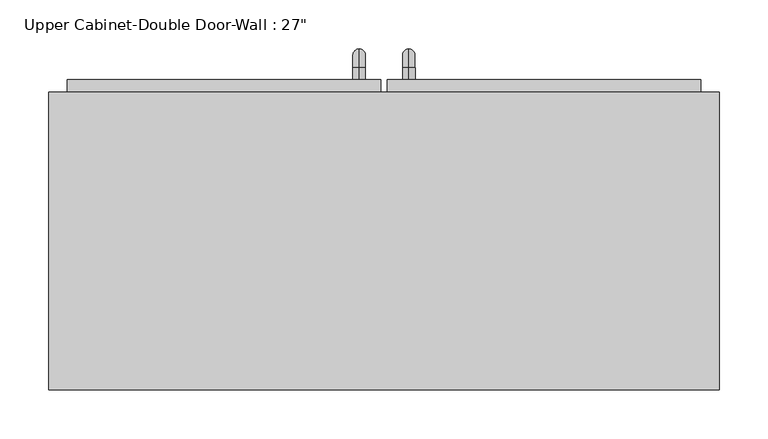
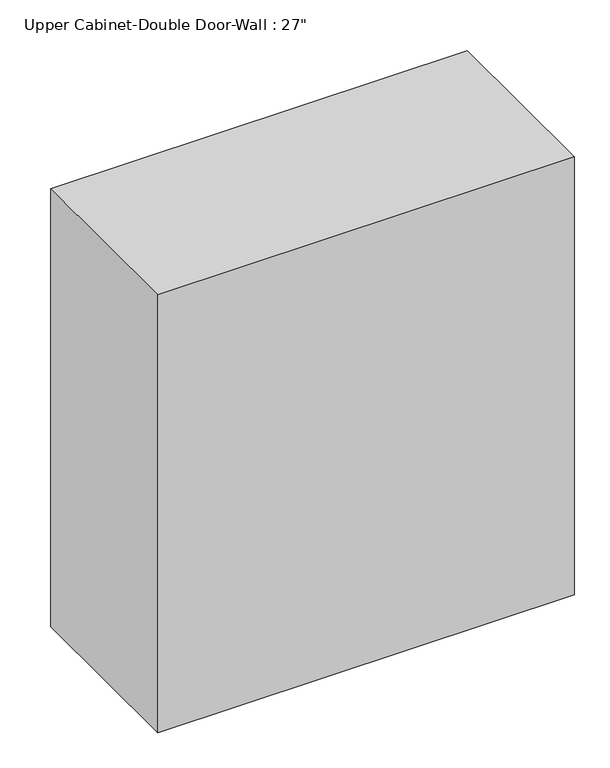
"""IFC4 building model written with IfcOpenShell, lengths in millimetres: furniture geometry."""

import ifcopenshell
import ifcopenshell.guid

model = None  # the IFC model being written
_history = None  # IfcOwnerHistory: only IFC2X3 demands one
_inside = {}  # id of a spatial element -> (the spatial element, [elements in it])
_under = {}  # id of a project, library or spatial element -> (it, [spatial elements below it])
_declared = {}  # id of a project -> (the project, [libraries it declares])
_typed = {}  # id of a type object -> (the type object, [elements of that type])
_made_of = {}  # id of a material, layer set ... -> (it, [elements and type objects made of it])


def new_model(schema):
    """Start an empty IFC model of exactly this schema.

    Asked for "IFC4X3", IfcOpenShell would pick the latest addendum, in which some entities
    have other attributes; the version numbers below select the first issue.
    IFC2X3 requires an IfcOwnerHistory on every rooted entity: one is made here for all.
    """
    global model, _history
    if schema == "IFC4X3":
        model = ifcopenshell.file(schema_version=(4, 3, 0, 0))
    else:
        model = ifcopenshell.file(schema=schema)
    _inside.clear()
    _under.clear()
    _declared.clear()
    _typed.clear()
    _made_of.clear()
    _history = None
    if model.schema == "IFC2X3":
        org = make("IfcOrganization", Name="unknown")
        user = make(
            "IfcPersonAndOrganization",
            ThePerson=make("IfcPerson", FamilyName="unknown"),
            TheOrganization=org,
        )
        app = make(
            "IfcApplication",
            ApplicationDeveloper=org,
            Version="unknown",
            ApplicationFullName="unknown",
            ApplicationIdentifier="unknown",
        )
        _history = make(
            "IfcOwnerHistory",
            OwningUser=user,
            OwningApplication=app,
            ChangeAction="ADDED",
            CreationDate=0,
        )
    return model


def make(cls, **values):
    """One entity of the class cls with the attributes given. An attribute that is None is left unset."""
    return model.create_entity(
        cls, **{name: value for name, value in values.items() if value is not None}
    )


def rooted(cls, **values):
    """An entity with a GlobalId (a new one), such as an element, a storey or a relation."""
    return make(cls, GlobalId=ifcopenshell.guid.new(), OwnerHistory=_history, **values)


def si_unit(unit_type, name, prefix=None):
    """IfcSIUnit, for example si_unit("LENGTHUNIT", "METRE", prefix="MILLI")."""
    return make("IfcSIUnit", UnitType=unit_type, Prefix=prefix, Name=name)


def assignment(units):
    """IfcUnitAssignment: the units of a project."""
    return None if units is None else make("IfcUnitAssignment", Units=units)


def point(xyz):
    """IfcCartesianPoint."""
    return None if xyz is None else make("IfcCartesianPoint", Coordinates=xyz)


def direction(xyz):
    """IfcDirection."""
    return None if xyz is None else make("IfcDirection", DirectionRatios=xyz)


def frame(location, z_axis=None, x_axis=None):
    """IfcAxis2Placement3D, a coordinate frame: its origin and axes. An axis left out is left unset."""
    return make(
        "IfcAxis2Placement3D",
        Location=point(location),
        Axis=direction(z_axis),
        RefDirection=direction(x_axis),
    )


def origin():
    """The frame at (0, 0, 0) with its axes left unset."""
    return frame((0.0, 0.0, 0.0))


def place(relative_to, where):
    """IfcLocalPlacement: puts the frame where relative to a parent placement (None: the world)."""
    return make(
        "IfcLocalPlacement", PlacementRelTo=relative_to, RelativePlacement=where
    )


def context(
    kind, dimensions, precision=None, world=None, true_north=None, identifier=None
):
    """IfcGeometricRepresentationContext, for example the 3D "Model" context."""
    return make(
        "IfcGeometricRepresentationContext",
        ContextIdentifier=identifier,
        ContextType=kind,
        CoordinateSpaceDimension=dimensions,
        Precision=precision,
        WorldCoordinateSystem=world,
        TrueNorth=true_north,
    )


def project(units=None, contexts=None):
    """IfcProject with its units and contexts."""
    return rooted(
        "IfcProject",
        Name="project",
        RepresentationContexts=contexts,
        UnitsInContext=assignment(units),
    )


def spatial(cls, under=None, at=None, **own):
    """A site, building, storey or space (cls), placed at a placement, below another one or the project."""
    s = rooted(cls, ObjectPlacement=at, **own)
    if under is not None:
        _under.setdefault(under.id(), (under, []))[1].append(s)
    return s


def polyline(points):
    """IfcPolyline through the points."""
    return make("IfcPolyline", Points=[point(p) for p in points])


def circle_curve(where, radius):
    """IfcCircle in the frame where."""
    return make("IfcCircle", Position=where, Radius=radius)


def ellipse_curve(where, semi_axis1, semi_axis2):
    """IfcEllipse in the frame where."""
    return make(
        "IfcEllipse", Position=where, SemiAxis1=semi_axis1, SemiAxis2=semi_axis2
    )


def trimmed(basis, trim1, trim2, sense, master):
    """IfcTrimmedCurve: the piece of a basis curve between two trims."""
    return make(
        "IfcTrimmedCurve",
        BasisCurve=basis,
        Trim1=trim1,
        Trim2=trim2,
        SenseAgreement=sense,
        MasterRepresentation=master,
    )


def outline(outer, holes=None, kind="AREA"):
    """IfcArbitraryClosedProfileDef: a profile drawn as a closed curve; with holes, ...WithVoids."""
    if holes is None:
        return make("IfcArbitraryClosedProfileDef", ProfileType=kind, OuterCurve=outer)
    return make(
        "IfcArbitraryProfileDefWithVoids",
        ProfileType=kind,
        OuterCurve=outer,
        InnerCurves=holes,
    )


def extrude(swept, where, along, depth):
    """IfcExtrudedAreaSolid: the profile swept, set in the frame where, extruded along a direction by depth."""
    return make(
        "IfcExtrudedAreaSolid",
        SweptArea=swept,
        Position=where,
        ExtrudedDirection=direction(along),
        Depth=depth,
    )


def faces_of(points, faces, orient=None, outer=None):
    """IfcFace entities. A face is a list of loops; a loop is a list of indices into points, from 0.

    orient and outer hold one flag for each loop. By default every Orientation is true, the
    first loop of a face is its IfcFaceOuterBound and the others are IfcFaceBound.
    """
    made = []
    for i, loops in enumerate(faces):
        bounds = []
        for j, loop in enumerate(loops):
            is_outer = j == 0 if outer is None else outer[i][j]
            bounds.append(
                make(
                    "IfcFaceOuterBound" if is_outer else "IfcFaceBound",
                    Bound=make("IfcPolyLoop", Polygon=[points[k] for k in loop]),
                    Orientation=True if orient is None else orient[i][j],
                )
            )
        made.append(make("IfcFace", Bounds=bounds))
    return made


def faceted_brep(points, faces, orient=None, outer=None, voids=None):
    """IfcFacetedBrep: a solid bounded by flat faces; with voids (closed shells), ...WithVoids."""
    shared = [point(p) for p in points]
    hull = make("IfcClosedShell", CfsFaces=faces_of(shared, faces, orient, outer))
    if voids is None:
        return make("IfcFacetedBrep", Outer=hull)
    return make(
        "IfcFacetedBrepWithVoids",
        Outer=hull,
        Voids=[
            make(cls, CfsFaces=faces_of(shared, fs, o, b)) for cls, fs, o, b in voids
        ],
    )


def shape(context_of_items, identifier, shape_type, items):
    """IfcShapeRepresentation: the items that make up one representation, for example the "Body"."""
    return make(
        "IfcShapeRepresentation",
        ContextOfItems=context_of_items,
        RepresentationIdentifier=identifier,
        RepresentationType=shape_type,
        Items=items,
    )


def source(mapping_origin, context_of_items, identifier, shape_type, items):
    """IfcRepresentationMap: a shape defined once, which mapped items show again and again."""
    return make(
        "IfcRepresentationMap",
        MappingOrigin=mapping_origin,
        MappedRepresentation=shape(context_of_items, identifier, shape_type, items),
    )


def transform(
    local_origin,
    x_axis=None,
    y_axis=None,
    z_axis=None,
    scale=None,
    scale2=None,
    scale3=None,
    uniform=True,
):
    """IfcCartesianTransformationOperator3D, or its non-uniform kind. x_axis, y_axis, z_axis: its Axis1, 2, 3."""
    if uniform:
        return make(
            "IfcCartesianTransformationOperator3D",
            Axis1=direction(x_axis),
            Axis2=direction(y_axis),
            LocalOrigin=point(local_origin),
            Scale=scale,
            Axis3=direction(z_axis),
        )
    return make(
        "IfcCartesianTransformationOperator3DnonUniform",
        Axis1=direction(x_axis),
        Axis2=direction(y_axis),
        LocalOrigin=point(local_origin),
        Scale=scale,
        Axis3=direction(z_axis),
        Scale2=scale2,
        Scale3=scale3,
    )


def mapped(mapping_source, mapping_target):
    """IfcMappedItem: shows the shape of a source again, moved by a transform."""
    return make(
        "IfcMappedItem", MappingSource=mapping_source, MappingTarget=mapping_target
    )


def made_of(thing, what):
    """Note that an element or type object is made of a material, layer set ...; save() writes the relation."""
    if what is not None:
        _made_of.setdefault(what.id(), (what, []))[1].append(thing)
    return thing


def element(
    cls,
    number,
    at=None,
    inside=None,
    cuts=None,
    type_object=None,
    material=None,
    context=None,
    identifier="Body",
    shape_type=None,
    held_by="IfcProductDefinitionShape",
    body=None,
    shapes=None,
    **own,
):
    """One element of the class cls, such as IfcWall. Its Tag is "e" and its number.

    at: its placement. inside: the storey or other place that contains it. cuts: it is an
    opening in that element (IfcRelVoidsElement). A single representation is given by context,
    identifier, shape_type and body (its items); several are given by shapes. held_by: the class
    of the entity that holds the representations. save() writes the other relations.
    """
    e = rooted(cls, Tag="e%d" % number, ObjectPlacement=at, **own)
    if body is not None:
        shapes = [shape(context, identifier, shape_type, body)]
    if shapes is not None:
        e.Representation = make(held_by, Representations=shapes)
    if inside is not None:
        _inside.setdefault(inside.id(), (inside, []))[1].append(e)
    if cuts is not None:
        rooted(
            "IfcRelVoidsElement", RelatingBuildingElement=cuts, RelatedOpeningElement=e
        )
    if type_object is not None:
        _typed.setdefault(type_object.id(), (type_object, []))[1].append(e)
    return made_of(e, material)


def aggregate(whole, parts):
    """IfcRelAggregates: a whole, such as a stair, and the parts it consists of."""
    return rooted("IfcRelAggregates", RelatingObject=whole, RelatedObjects=parts)


def save(model, path):
    """Write the relations noted so far, then the file.

    IfcRelAggregates (storeys below a building ...), IfcRelContainedInSpatialStructure (elements
    in a storey), IfcRelDefinesByType, IfcRelAssociatesMaterial and IfcRelDeclares: one each for
    every whole, place, type object, material and project.
    """
    for whole, parts in _under.values():
        aggregate(whole, parts)
    for where, things in _inside.values():
        rooted(
            "IfcRelContainedInSpatialStructure",
            RelatedElements=things,
            RelatingStructure=where,
        )
    for kind, things in _typed.values():
        rooted("IfcRelDefinesByType", RelatedObjects=things, RelatingType=kind)
    for what, things in _made_of.values():
        rooted("IfcRelAssociatesMaterial", RelatedObjects=things, RelatingMaterial=what)
    for by, libraries in _declared.values():
        rooted("IfcRelDeclares", RelatingContext=by, RelatedDefinitions=libraries)
    model.write(path)


def plane_surface(at):
    """IfcPlane: the flat surface through the origin of the frame at, square to its z axis."""
    return make("IfcPlane", Position=at)


def cylinder_surface(at, radius):
    """IfcCylindricalSurface: all points at the distance radius from the z axis of the frame at."""
    return make("IfcCylindricalSurface", Position=at, Radius=radius)


def revolved_surface(curve, axis_point, axis_direction):
    """IfcSurfaceOfRevolution: the curve turned about the line through axis_point along axis_direction."""
    return make(
        "IfcSurfaceOfRevolution",
        SweptCurve=make("IfcArbitraryOpenProfileDef", ProfileType="CURVE", Curve=curve),
        AxisPosition=make("IfcAxis1Placement", Location=point(axis_point), Axis=direction(axis_direction)),
    )


def advanced_brep(points, edges, surfaces, faces):
    """IfcAdvancedBrep: a solid bounded by faces that lie on surfaces and meet in shared edges.

    An edge is (start, end): straight between two places in points (the first is 0);
    or (start, end, curve); or (start, end, curve, False) where it runs against its curve.
    A face is (place in surfaces, loops), or (place, loops, False) where it looks against
    its surface's normal. A loop lists edges by number (the first is 1), with a minus sign
    where the edge is run from its end to its start. The first loop is the outer one.
    """
    corners = [point(p) for p in points]
    vertices = [make("IfcVertexPoint", VertexGeometry=c) for c in corners]
    made = []
    for start, end, *more in edges:
        made.append(
            make(
                "IfcEdgeCurve",
                EdgeStart=vertices[start],
                EdgeEnd=vertices[end],
                EdgeGeometry=more[0] if more else make("IfcPolyline", Points=[corners[start], corners[end]]),
                SameSense=more[1] if len(more) > 1 else True,
            )
        )
    hull = []
    for where, loops, *sense in faces:
        bounds = []
        for j, loop in enumerate(loops):
            ring = [make("IfcOrientedEdge", EdgeElement=made[abs(k) - 1], Orientation=k > 0) for k in loop]
            bounds.append(
                make(
                    "IfcFaceOuterBound" if j == 0 else "IfcFaceBound",
                    Bound=make("IfcEdgeLoop", EdgeList=ring),
                    Orientation=True,
                )
            )
        hull.append(make("IfcAdvancedFace", Bounds=bounds, FaceSurface=surfaces[where], SameSense=sense[0] if sense else True))
    return make("IfcAdvancedBrep", Outer=make("IfcClosedShell", CfsFaces=hull))


def furniture_a8c34398(model_context):
    return source(origin(), model_context, "Body", "SolidModel", [
        faceted_brep([(-313.1288372, 57.15, 2133.6), (-313.1288372, 57.15, 1371.6), (372.6711628, 57.15, 1371.6), (372.6711628, 57.15, 2133.6), (-313.1288372, 361.95, 2133.6), (372.6711628, 361.95, 2133.6), (372.6711628, 361.95, 1371.6), (-313.1288372, 361.95, 1371.6), (-294.0788372, 361.95, 2114.55), (-294.0788372, 361.95, 1390.65), (353.6211628, 361.95, 1390.65), (353.6211628, 361.95, 2114.55), (353.6211628, 76.2, 2114.55), (-294.0788372, 76.2, 2114.55), (353.6211628, 76.2, 1390.65), (-294.0788372, 76.2, 1390.65)], [[[0, 1, 2, 3]], [[4, 5, 6, 7], [8, 9, 10, 11]], [[1, 0, 4, 7]], [[2, 1, 7, 6]], [[3, 2, 6, 5]], [[0, 3, 5, 4]], [[8, 11, 12, 13]], [[11, 10, 14, 12]], [[10, 9, 15, 14]], [[9, 8, 13, 15]], [[13, 12, 14, 15]]]),
        advanced_brep(
        [(55.1711628, 374.65, 1517.65), (55.1711628, 374.65, 1530.35), (55.1711628, 387.35, 1517.65), (55.1711628, 387.35, 1530.35), (55.1711628, 406.4, 1511.3), (55.1711628, 393.7, 1511.3), (55.1711628, 393.7, 1435.1), (55.1711628, 406.4, 1435.1), (55.1711628, 387.35, 1416.05), (55.1711628, 387.35, 1428.75), (55.1711628, 374.65, 1428.75), (55.1711628, 374.65, 1416.05)],
        [
            (0, 1, circle_curve(frame((55.1711628, 374.65, 1524.0), z_axis=(0.0, -1.0, 0.0), x_axis=(0.0, 0.0, -1.0)), 6.35)),
            (1, 0, circle_curve(frame((55.1711628, 374.65, 1524.0), z_axis=(0.0, -1.0, 0.0), x_axis=(0.0, 0.0, -1.0)), 6.35)),
            (0, 2),
            (2, 3, circle_curve(frame((55.1711628, 387.35, 1524.0), z_axis=(0.0, -1.0, 0.0), x_axis=(0.0, 0.0, -1.0)), 6.35)),
            (3, 1),
            (3, 2, circle_curve(frame((55.1711628, 387.35, 1524.0), z_axis=(0.0, -1.0, 0.0), x_axis=(0.0, 0.0, -1.0)), 6.35)),
            (4, 3, circle_curve(frame((55.1711628, 387.35, 1511.3), z_axis=(1.0, 0.0, 0.0), x_axis=(0.0, 0.0, 1.0)), 19.05)),
            (2, 5, circle_curve(frame((55.1711628, 387.35, 1511.3), z_axis=(-1.0, 0.0, 0.0), x_axis=(0.0, 0.0, 1.0)), 6.35)),
            (5, 4, circle_curve(frame((55.1711628, 400.05, 1511.3), z_axis=(0.0, 0.0, 1.0), x_axis=(0.0, -1.0, 0.0)), 6.35)),
            (4, 5, circle_curve(frame((55.1711628, 400.05, 1511.3), z_axis=(0.0, 0.0, 1.0), x_axis=(0.0, -1.0, 0.0)), 6.35)),
            (5, 6),
            (6, 7, circle_curve(frame((55.1711628, 400.05, 1435.1), z_axis=(0.0, 0.0, 1.0), x_axis=(0.0, -1.0, 0.0)), 6.35)),
            (7, 4),
            (7, 6, circle_curve(frame((55.1711628, 400.05, 1435.1), z_axis=(0.0, 0.0, 1.0), x_axis=(0.0, -1.0, 0.0)), 6.35)),
            (8, 7, circle_curve(frame((55.1711628, 387.35, 1435.1), z_axis=(1.0, 0.0, 0.0), x_axis=(0.0, 1.0, 0.0)), 19.05)),
            (6, 9, circle_curve(frame((55.1711628, 387.35, 1435.1), z_axis=(-1.0, 0.0, 0.0), x_axis=(0.0, 1.0, 0.0)), 6.35)),
            (9, 8, circle_curve(frame((55.1711628, 387.35, 1422.4), z_axis=(0.0, 1.0, 0.0), x_axis=(0.0, 0.0, 1.0)), 6.35)),
            (8, 9, circle_curve(frame((55.1711628, 387.35, 1422.4), z_axis=(0.0, 1.0, 0.0), x_axis=(0.0, 0.0, 1.0)), 6.35)),
            (10, 11, circle_curve(frame((55.1711628, 374.65, 1422.4), z_axis=(0.0, -1.0, 0.0), x_axis=(0.0, 0.0, 1.0)), 6.35)),
            (11, 10, circle_curve(frame((55.1711628, 374.65, 1422.4), z_axis=(0.0, -1.0, 0.0), x_axis=(0.0, 0.0, 1.0)), 6.35)),
            (9, 10),
            (11, 8),
        ],
        [
            plane_surface(frame((48.8211628, 374.65, 1524.0), z_axis=(0.0, -1.0, 0.0), x_axis=(0.0, 0.0, 1.0))),
            cylinder_surface(frame((55.1711628, 374.65, 1524.0), z_axis=(0.0, -1.0, 0.0), x_axis=(0.0, 0.0, -1.0)), 6.35),
            revolved_surface(trimmed(ellipse_curve(frame((55.1711628, 387.35, 1524.0), z_axis=(0.0, -1.0, 0.0), x_axis=(0.0, 0.0, -1.0)), 6.35, 6.35), [point((55.1711628, 387.35, 1517.65))], [point((55.1711628, 387.35, 1530.35))], True, "CARTESIAN"), (55.1711628, 387.35, 1511.3), (-1.0, 0.0, 0.0)),
            revolved_surface(trimmed(ellipse_curve(frame((55.1711628, 387.35, 1524.0), z_axis=(0.0, -1.0, 0.0), x_axis=(0.0, 0.0, -1.0)), 6.35, 6.35), [point((55.1711628, 387.35, 1530.35))], [point((55.1711628, 387.35, 1517.65))], True, "CARTESIAN"), (55.1711628, 387.35, 1511.3), (-1.0, 0.0, 0.0)),
            cylinder_surface(frame((55.1711628, 400.05, 1511.3), z_axis=(0.0, 0.0, 1.0), x_axis=(0.0, -1.0, 0.0)), 6.35),
            revolved_surface(trimmed(ellipse_curve(frame((55.1711628, 400.05, 1435.1), z_axis=(0.0, 0.0, 1.0), x_axis=(0.0, -1.0, 0.0)), 6.35, 6.35), [point((55.1711628, 393.7, 1435.1))], [point((55.1711628, 406.4, 1435.1))], True, "CARTESIAN"), (55.1711628, 387.35, 1435.1), (-1.0, 0.0, 0.0)),
            revolved_surface(trimmed(ellipse_curve(frame((55.1711628, 400.05, 1435.1), z_axis=(0.0, 0.0, 1.0), x_axis=(0.0, -1.0, 0.0)), 6.35, 6.35), [point((55.1711628, 406.4, 1435.1))], [point((55.1711628, 393.7, 1435.1))], True, "CARTESIAN"), (55.1711628, 387.35, 1435.1), (-1.0, 0.0, 0.0)),
            plane_surface(frame((48.8211628, 374.65, 1422.4), z_axis=(0.0, -1.0, 0.0), x_axis=(0.0, 0.0, -1.0))),
            cylinder_surface(frame((55.1711628, 387.35, 1422.4), z_axis=(0.0, 1.0, 0.0), x_axis=(0.0, 0.0, 1.0)), 6.35),
        ],
        [
            (0, [[1, 2]]),
            (1, [[-1, 3, 4, 5]]),
            (1, [[-2, -5, 6, -3]]),
            (2, [[7, -4, 8, 9]]),
            (3, [[-8, -6, -7, 10]]),
            (4, [[-9, 11, 12, 13]]),
            (4, [[-10, -13, 14, -11]]),
            (5, [[15, -12, 16, 17]]),
            (6, [[-16, -14, -15, 18]]),
            (7, [[19, 20]]),
            (8, [[-17, 21, -20, 22]]),
            (8, [[-18, -22, -19, -21]]),
        ],
    ),
        advanced_brep(
        [(4.3711628, 374.65, 1517.65), (4.3711628, 374.65, 1530.35), (4.3711628, 387.35, 1517.65), (4.3711628, 387.35, 1530.35), (4.3711628, 406.4, 1511.3), (4.3711628, 393.7, 1511.3), (4.3711628, 393.7, 1435.1), (4.3711628, 406.4, 1435.1), (4.3711628, 387.35, 1416.05), (4.3711628, 387.35, 1428.75), (4.3711628, 374.65, 1428.75), (4.3711628, 374.65, 1416.05)],
        [
            (0, 1, circle_curve(frame((4.3711628, 374.65, 1524.0), z_axis=(0.0, -1.0, 0.0), x_axis=(0.0, 0.0, 1.0)), 6.35)),
            (1, 0, circle_curve(frame((4.3711628, 374.65, 1524.0), z_axis=(0.0, -1.0, 0.0), x_axis=(0.0, 0.0, 1.0)), 6.35)),
            (0, 2),
            (2, 3, circle_curve(frame((4.3711628, 387.35, 1524.0), z_axis=(0.0, -1.0, 0.0), x_axis=(0.0, 0.0, 1.0)), 6.35)),
            (3, 1),
            (3, 2, circle_curve(frame((4.3711628, 387.35, 1524.0), z_axis=(0.0, -1.0, 0.0), x_axis=(0.0, 0.0, 1.0)), 6.35)),
            (4, 3, circle_curve(frame((4.3711628, 387.35, 1511.3), z_axis=(1.0, 0.0, 0.0), x_axis=(0.0, 0.0, 1.0)), 19.05)),
            (2, 5, circle_curve(frame((4.3711628, 387.35, 1511.3), z_axis=(-1.0, 0.0, 0.0), x_axis=(0.0, 0.0, 1.0)), 6.35)),
            (5, 4, circle_curve(frame((4.3711628, 400.05, 1511.3), z_axis=(0.0, 0.0, 1.0), x_axis=(0.0, 1.0, 0.0)), 6.35)),
            (4, 5, circle_curve(frame((4.3711628, 400.05, 1511.3), z_axis=(0.0, 0.0, 1.0), x_axis=(0.0, 1.0, 0.0)), 6.35)),
            (5, 6),
            (6, 7, circle_curve(frame((4.3711628, 400.05, 1435.1), z_axis=(0.0, 0.0, 1.0), x_axis=(0.0, 1.0, 0.0)), 6.35)),
            (7, 4),
            (7, 6, circle_curve(frame((4.3711628, 400.05, 1435.1), z_axis=(0.0, 0.0, 1.0), x_axis=(0.0, 1.0, 0.0)), 6.35)),
            (8, 7, circle_curve(frame((4.3711628, 387.35, 1435.1), z_axis=(1.0, 0.0, 0.0), x_axis=(0.0, 1.0, 0.0)), 19.05)),
            (6, 9, circle_curve(frame((4.3711628, 387.35, 1435.1), z_axis=(-1.0, 0.0, 0.0), x_axis=(0.0, 1.0, 0.0)), 6.35)),
            (9, 8, circle_curve(frame((4.3711628, 387.35, 1422.4), z_axis=(0.0, 1.0, 0.0), x_axis=(0.0, 0.0, -1.0)), 6.35)),
            (8, 9, circle_curve(frame((4.3711628, 387.35, 1422.4), z_axis=(0.0, 1.0, 0.0), x_axis=(0.0, 0.0, -1.0)), 6.35)),
            (10, 11, circle_curve(frame((4.3711628, 374.65, 1422.4), z_axis=(0.0, -1.0, 0.0), x_axis=(0.0, 0.0, -1.0)), 6.35)),
            (11, 10, circle_curve(frame((4.3711628, 374.65, 1422.4), z_axis=(0.0, -1.0, 0.0), x_axis=(0.0, 0.0, -1.0)), 6.35)),
            (9, 10),
            (11, 8),
        ],
        [
            plane_surface(frame((-1.9788372, 374.65, 1524.0), z_axis=(0.0, -1.0, 0.0), x_axis=(0.0, 0.0, 1.0))),
            cylinder_surface(frame((4.3711628, 374.65, 1524.0), z_axis=(0.0, -1.0, 0.0), x_axis=(0.0, 0.0, 1.0)), 6.35),
            revolved_surface(trimmed(ellipse_curve(frame((4.3711628, 387.35, 1524.0), z_axis=(0.0, -1.0, 0.0), x_axis=(0.0, 0.0, 1.0)), 6.35, 6.35), [point((4.3711628, 387.35, 1517.65))], [point((4.3711628, 387.35, 1530.35))], True, "CARTESIAN"), (4.3711628, 387.35, 1511.3), (-1.0, 0.0, 0.0)),
            revolved_surface(trimmed(ellipse_curve(frame((4.3711628, 387.35, 1524.0), z_axis=(0.0, -1.0, 0.0), x_axis=(0.0, 0.0, 1.0)), 6.35, 6.35), [point((4.3711628, 387.35, 1530.35))], [point((4.3711628, 387.35, 1517.65))], True, "CARTESIAN"), (4.3711628, 387.35, 1511.3), (-1.0, 0.0, 0.0)),
            cylinder_surface(frame((4.3711628, 400.05, 1511.3), z_axis=(0.0, 0.0, 1.0), x_axis=(0.0, 1.0, 0.0)), 6.35),
            revolved_surface(trimmed(ellipse_curve(frame((4.3711628, 400.05, 1435.1), z_axis=(0.0, 0.0, 1.0), x_axis=(0.0, 1.0, 0.0)), 6.35, 6.35), [point((4.3711628, 393.7, 1435.1))], [point((4.3711628, 406.4, 1435.1))], True, "CARTESIAN"), (4.3711628, 387.35, 1435.1), (-1.0, 0.0, 0.0)),
            revolved_surface(trimmed(ellipse_curve(frame((4.3711628, 400.05, 1435.1), z_axis=(0.0, 0.0, 1.0), x_axis=(0.0, 1.0, 0.0)), 6.35, 6.35), [point((4.3711628, 406.4, 1435.1))], [point((4.3711628, 393.7, 1435.1))], True, "CARTESIAN"), (4.3711628, 387.35, 1435.1), (-1.0, 0.0, 0.0)),
            plane_surface(frame((-1.9788372, 374.65, 1422.4), z_axis=(0.0, -1.0, 0.0), x_axis=(0.0, 0.0, -1.0))),
            cylinder_surface(frame((4.3711628, 387.35, 1422.4), z_axis=(0.0, 1.0, 0.0), x_axis=(0.0, 0.0, -1.0)), 6.35),
        ],
        [
            (0, [[1, 2]]),
            (1, [[-1, 3, 4, 5]]),
            (1, [[-2, -5, 6, -3]]),
            (2, [[7, -4, 8, 9]]),
            (3, [[-8, -6, -7, 10]]),
            (4, [[-9, 11, 12, 13]]),
            (4, [[-10, -13, 14, -11]]),
            (5, [[15, -12, 16, 17]]),
            (6, [[-16, -14, -15, 18]]),
            (7, [[19, 20]]),
            (8, [[-17, 21, -20, 22]]),
            (8, [[-18, -22, -19, -21]]),
        ],
    ),
        extrude(outline(polyline([(32.9461628, 374.65), (353.6211628, 374.65), (353.6211628, 342.9), (32.9461628, 342.9), (32.9461628, 374.65)])), frame((0.0, 0.0, 1390.65), z_axis=(0.0, 0.0, 1.0), x_axis=(1.0, 0.0, 0.0)), (0.0, 0.0, 1.0), 723.9),
        extrude(outline(polyline([(-294.0788372, 374.65), (26.5961628, 374.65), (26.5961628, 342.9), (-294.0788372, 342.9), (-294.0788372, 374.65)])), frame((0.0, 0.0, 1390.65), z_axis=(0.0, 0.0, 1.0), x_axis=(1.0, 0.0, 0.0)), (0.0, 0.0, 1.0), 723.9),
    ])


if __name__ == "__main__":
    model = new_model("IFC4")
    model_context = context("Model", 3, world=origin())
    ifc_project = project(units=[si_unit("LENGTHUNIT", "METRE", prefix="MILLI")], contexts=[model_context])
    site = spatial("IfcSite", under=ifc_project)
    building = spatial("IfcBuilding", under=site)
    placement = place(None, origin())
    furniture_shape = furniture_a8c34398(model_context)
    element("IfcFurniture", 1, ObjectType="Upper Cabinet-Double Door-Wall : 27\"", at=placement, inside=building, context=model_context, shape_type="MappedRepresentation", body=[
        mapped(furniture_shape, transform((0.0, 0.0, 0.0), x_axis=(1.0, 0.0, 0.0), y_axis=(0.0, 1.0, 0.0), z_axis=(0.0, 0.0, 1.0))),
    ])
    save(model, "model.ifc")
